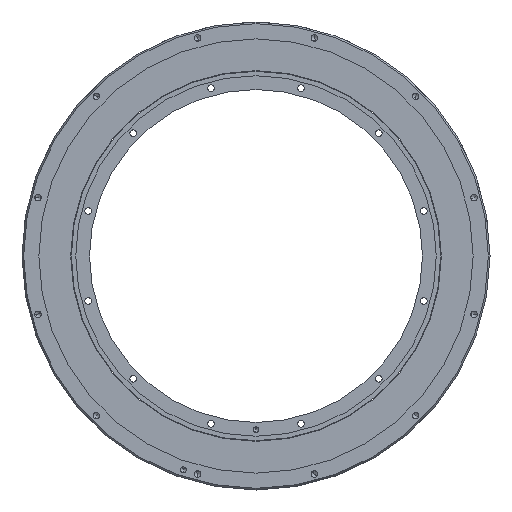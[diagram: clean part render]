
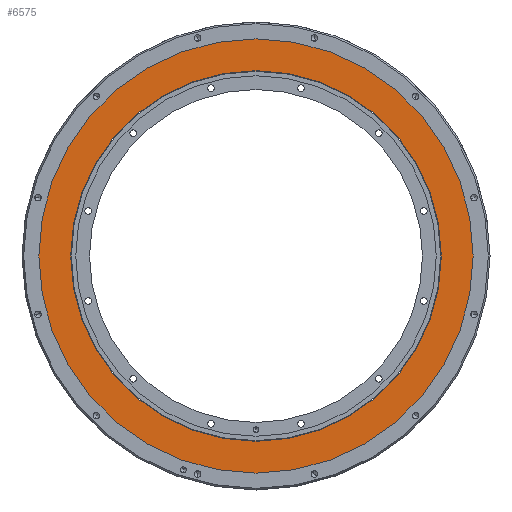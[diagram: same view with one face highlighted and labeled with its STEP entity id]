
A CAD part, front view. The second image highlights one B-rep face of the part: STEP entity #6575.
In plain terms, the highlighted planar face has unit normal (0, -1, 0).
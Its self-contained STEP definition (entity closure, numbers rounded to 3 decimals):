
#63 = PLANE ( 'NONE',  #3295 ) ;
#71 = VERTEX_POINT ( 'NONE', #4743 ) ;
#201 = EDGE_CURVE ( 'NONE', #5006, #4529, #3222, .T. ) ;
#316 = EDGE_CURVE ( 'NONE', #4529, #5006, #4785, .T. ) ;
#448 = EDGE_CURVE ( 'NONE', #71, #2809, #5978, .T. ) ;
#934 = AXIS2_PLACEMENT_3D ( 'NONE', #1633, #2838, #5677 ) ;
#1633 = CARTESIAN_POINT ( 'NONE',  ( 0., 1., 0. ) ) ;
#1798 = ORIENTED_EDGE ( 'NONE', *, *, #316, .T. ) ;
#2090 = DIRECTION ( 'NONE',  ( 0., -1., 0. ) ) ;
#2134 = DIRECTION ( 'NONE',  ( 0., -1., 0. ) ) ;
#2228 = AXIS2_PLACEMENT_3D ( 'NONE', #3227, #2134, #5584 ) ;
#2299 = DIRECTION ( 'NONE',  ( 0., 0., -1. ) ) ;
#2321 = CARTESIAN_POINT ( 'NONE',  ( 0., 1., -225. ) ) ;
#2348 = DIRECTION ( 'NONE',  ( 0., -1., 0. ) ) ;
#2513 = ORIENTED_EDGE ( 'NONE', *, *, #448, .F. ) ;
#2798 = EDGE_LOOP ( 'NONE', ( #6215, #1798 ) ) ;
#2809 = VERTEX_POINT ( 'NONE', #6020 ) ;
#2838 = DIRECTION ( 'NONE',  ( 0., -1., 0. ) ) ;
#2946 = CARTESIAN_POINT ( 'NONE',  ( 192., 1., 0. ) ) ;
#3030 = DIRECTION ( 'NONE',  ( 0., 0., -1. ) ) ;
#3222 = CIRCLE ( 'NONE', #2228, 225. ) ;
#3227 = CARTESIAN_POINT ( 'NONE',  ( 0., 1., 0. ) ) ;
#3295 = AXIS2_PLACEMENT_3D ( 'NONE', #2946, #5949, #3030 ) ;
#3339 = AXIS2_PLACEMENT_3D ( 'NONE', #4436, #2090, #4952 ) ;
#3653 = AXIS2_PLACEMENT_3D ( 'NONE', #4656, #2348, #2299 ) ;
#3906 = ORIENTED_EDGE ( 'NONE', *, *, #5769, .F. ) ;
#4436 = CARTESIAN_POINT ( 'NONE',  ( 0., 1., 0. ) ) ;
#4529 = VERTEX_POINT ( 'NONE', #5690 ) ;
#4656 = CARTESIAN_POINT ( 'NONE',  ( 0., 1., 0. ) ) ;
#4743 = CARTESIAN_POINT ( 'NONE',  ( 0., 1., -192. ) ) ;
#4785 = CIRCLE ( 'NONE', #934, 225. ) ;
#4952 = DIRECTION ( 'NONE',  ( 0., 0., -1. ) ) ;
#5002 = FACE_OUTER_BOUND ( 'NONE', #2798, .T. ) ;
#5006 = VERTEX_POINT ( 'NONE', #2321 ) ;
#5368 = FACE_BOUND ( 'NONE', #6013, .T. ) ;
#5584 = DIRECTION ( 'NONE',  ( 0., 0., -1. ) ) ;
#5677 = DIRECTION ( 'NONE',  ( 0., 0., -1. ) ) ;
#5690 = CARTESIAN_POINT ( 'NONE',  ( 0., 1., 225. ) ) ;
#5769 = EDGE_CURVE ( 'NONE', #2809, #71, #7210, .T. ) ;
#5949 = DIRECTION ( 'NONE',  ( 0., -1., 0. ) ) ;
#5978 = CIRCLE ( 'NONE', #3653, 192. ) ;
#6013 = EDGE_LOOP ( 'NONE', ( #2513, #3906 ) ) ;
#6020 = CARTESIAN_POINT ( 'NONE',  ( 0., 1., 192. ) ) ;
#6215 = ORIENTED_EDGE ( 'NONE', *, *, #201, .T. ) ;
#6575 = ADVANCED_FACE ( 'NONE', ( #5002, #5368 ), #63, .T. ) ;
#7210 = CIRCLE ( 'NONE', #3339, 192. ) ;
